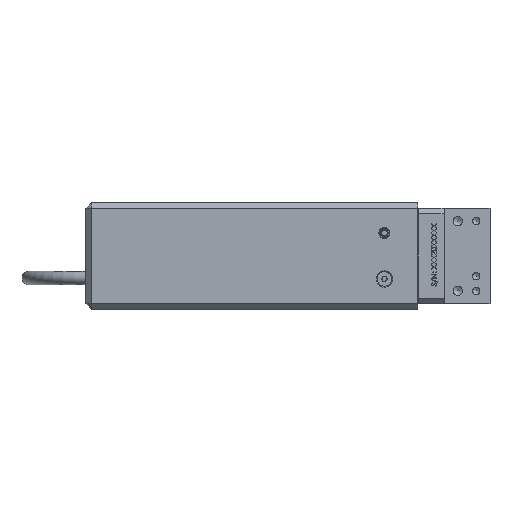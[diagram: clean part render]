
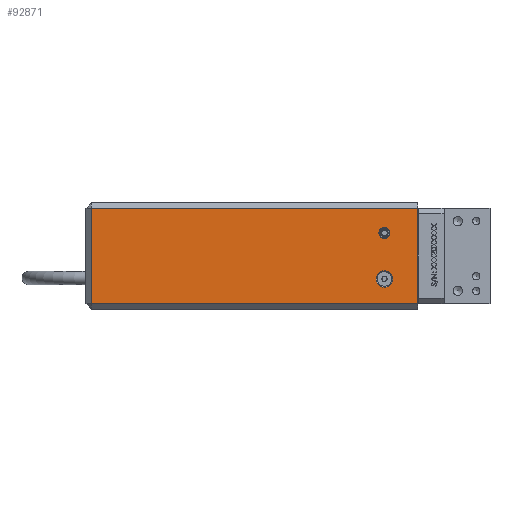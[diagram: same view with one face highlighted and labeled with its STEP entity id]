
A CAD part, left-side view. The second image highlights one B-rep face of the part: STEP entity #92871.
In plain terms, the highlighted planar face has unit normal (-1, 0, 0).
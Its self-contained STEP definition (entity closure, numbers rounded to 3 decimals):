
#501 = CARTESIAN_POINT ( 'NONE',  ( -41., 60.5, 12.5 ) ) ;
#7207 = EDGE_LOOP ( 'NONE', ( #136111, #56880, #74771, #101065 ) ) ;
#8426 = CARTESIAN_POINT ( 'NONE',  ( -41., 39.3, 26. ) ) ;
#11669 = DIRECTION ( 'NONE',  ( 0., 1., 0. ) ) ;
#19551 = EDGE_CURVE ( 'NONE', #44832, #98328, #140119, .T. ) ;
#23369 = DIRECTION ( 'NONE',  ( 0., -1., 0. ) ) ;
#24024 = FACE_BOUND ( 'NONE', #68140, .T. ) ;
#25722 = EDGE_LOOP ( 'NONE', ( #184560 ) ) ;
#26987 = CARTESIAN_POINT ( 'NONE',  ( -41., 39.3, 29. ) ) ;
#34294 = EDGE_CURVE ( 'NONE', #154411, #154411, #106120, .T. ) ;
#37123 = VECTOR ( 'NONE', #92379, 1000. ) ;
#38207 = CARTESIAN_POINT ( 'NONE',  ( -41., 57.5, -12.5 ) ) ;
#41256 = VERTEX_POINT ( 'NONE', #8426 ) ;
#44832 = VERTEX_POINT ( 'NONE', #95433 ) ;
#47698 = VECTOR ( 'NONE', #86319, 1000. ) ;
#52114 = CARTESIAN_POINT ( 'NONE',  ( -41., 62., -12.5 ) ) ;
#55546 = EDGE_CURVE ( 'NONE', #98328, #41256, #105642, .T. ) ;
#56880 = ORIENTED_EDGE ( 'NONE', *, *, #19551, .T. ) ;
#62434 = VECTOR ( 'NONE', #170021, 1000. ) ;
#64524 = DIRECTION ( 'NONE',  ( 0., 1., 0. ) ) ;
#67104 = CARTESIAN_POINT ( 'NONE',  ( -41., 89.5, -26. ) ) ;
#68140 = EDGE_LOOP ( 'NONE', ( #139674 ) ) ;
#71868 = CARTESIAN_POINT ( 'NONE',  ( -41., 57.5, 12.5 ) ) ;
#74771 = ORIENTED_EDGE ( 'NONE', *, *, #55546, .T. ) ;
#85243 = FACE_OUTER_BOUND ( 'NONE', #7207, .T. ) ;
#86210 = FACE_BOUND ( 'NONE', #25722, .T. ) ;
#86319 = DIRECTION ( 'NONE',  ( 0., 0., 1. ) ) ;
#92379 = DIRECTION ( 'NONE',  ( 0., 0., -1. ) ) ;
#92871 = ADVANCED_FACE ( 'NONE', ( #85243, #24024, #86210 ), #142704, .F. ) ;
#95397 = AXIS2_PLACEMENT_3D ( 'NONE', #71868, #144941, #11669 ) ;
#95433 = CARTESIAN_POINT ( 'NONE',  ( -41., 217., -26. ) ) ;
#98328 = VERTEX_POINT ( 'NONE', #148181 ) ;
#101065 = ORIENTED_EDGE ( 'NONE', *, *, #140450, .T. ) ;
#105642 = LINE ( 'NONE', #26987, #47698 ) ;
#106120 = CIRCLE ( 'NONE', #180742, 4.5 ) ;
#108804 = LINE ( 'NONE', #183873, #37123 ) ;
#120141 = VERTEX_POINT ( 'NONE', #501 ) ;
#120199 = DIRECTION ( 'NONE',  ( 1., 0., 0. ) ) ;
#120504 = EDGE_CURVE ( 'NONE', #120141, #120141, #179386, .T. ) ;
#123232 = CARTESIAN_POINT ( 'NONE',  ( -41., 220., 26. ) ) ;
#124203 = EDGE_CURVE ( 'NONE', #186407, #44832, #108804, .T. ) ;
#125751 = CARTESIAN_POINT ( 'NONE',  ( -41., 217., 26. ) ) ;
#128723 = AXIS2_PLACEMENT_3D ( 'NONE', #178679, #120199, #150401 ) ;
#136111 = ORIENTED_EDGE ( 'NONE', *, *, #124203, .T. ) ;
#139674 = ORIENTED_EDGE ( 'NONE', *, *, #34294, .F. ) ;
#140119 = LINE ( 'NONE', #67104, #190818 ) ;
#140450 = EDGE_CURVE ( 'NONE', #41256, #186407, #182659, .T. ) ;
#142704 = PLANE ( 'NONE',  #128723 ) ;
#144941 = DIRECTION ( 'NONE',  ( -1., 0., 0. ) ) ;
#148181 = CARTESIAN_POINT ( 'NONE',  ( -41., 39.3, -26. ) ) ;
#150401 = DIRECTION ( 'NONE',  ( 0., 0., -1. ) ) ;
#154411 = VERTEX_POINT ( 'NONE', #52114 ) ;
#169766 = DIRECTION ( 'NONE',  ( -1., 0., 0. ) ) ;
#170021 = DIRECTION ( 'NONE',  ( 0., 1., 0. ) ) ;
#178679 = CARTESIAN_POINT ( 'NONE',  ( -41., 180.5, -18. ) ) ;
#179386 = CIRCLE ( 'NONE', #95397, 3. ) ;
#180742 = AXIS2_PLACEMENT_3D ( 'NONE', #38207, #169766, #64524 ) ;
#182659 = LINE ( 'NONE', #123232, #62434 ) ;
#183873 = CARTESIAN_POINT ( 'NONE',  ( -41., 217., 29. ) ) ;
#184560 = ORIENTED_EDGE ( 'NONE', *, *, #120504, .F. ) ;
#186407 = VERTEX_POINT ( 'NONE', #125751 ) ;
#190818 = VECTOR ( 'NONE', #23369, 1000. ) ;
